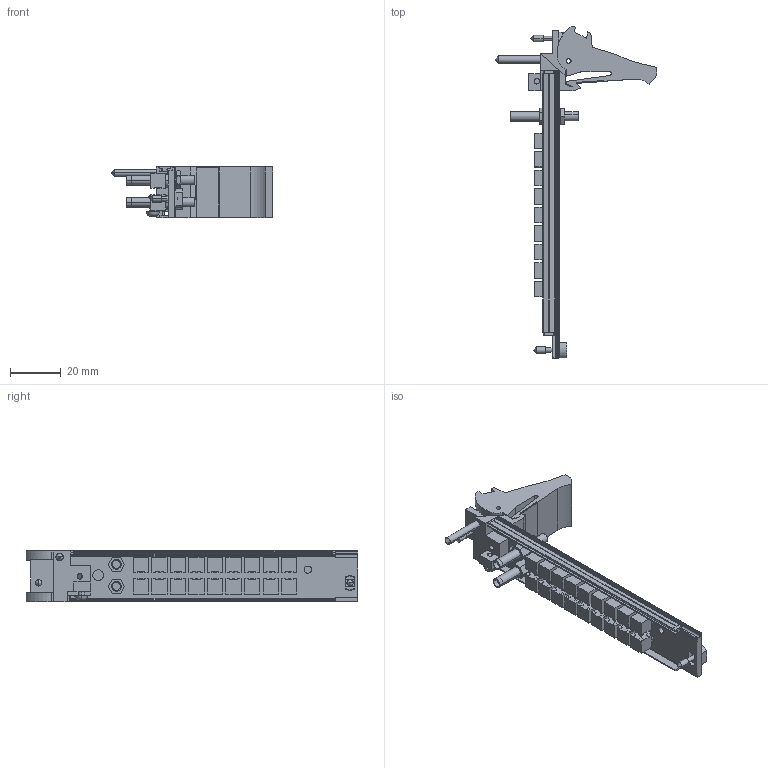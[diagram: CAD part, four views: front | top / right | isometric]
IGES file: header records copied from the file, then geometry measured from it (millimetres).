
Start section:  PTC IGES file: cu_pxie-2593.igs
Global section: file name: cu_pxie-2593.igs; native system: Pro/ENGINEER by Parametric Technology Corporation; preprocessor: 2006080; author: jjorden; organization: Unknown; date: 091106.111830; units: inch
Bounding box: 63.53 x 130.46 x 20.31 mm (x, y, z)
Surface area: 21710.8 mm2 (no closed solid volume)
Topology: 0 solids, 0 shells, 995 faces, 4940 edges, 4932 vertices
Faces by surface type: bspline 676, revolution 319
